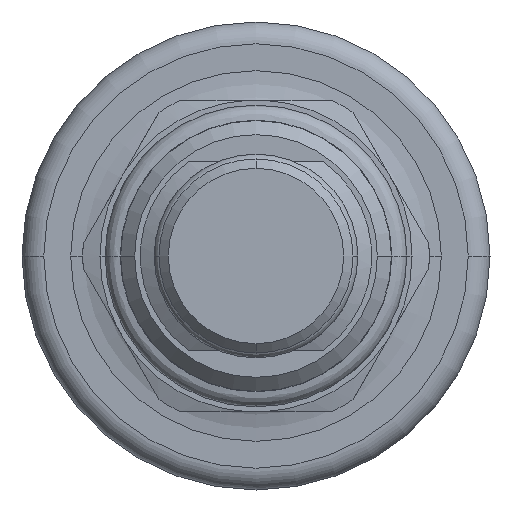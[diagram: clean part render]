
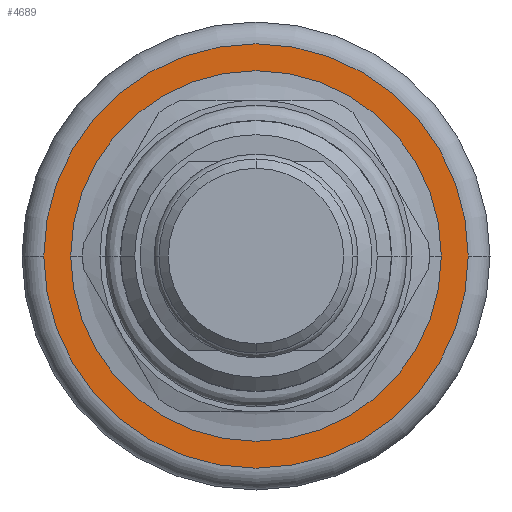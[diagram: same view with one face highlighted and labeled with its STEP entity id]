
A CAD part, front view. The second image highlights one B-rep face of the part: STEP entity #4689.
In plain terms, the highlighted planar face has unit normal (0, -1, 0).
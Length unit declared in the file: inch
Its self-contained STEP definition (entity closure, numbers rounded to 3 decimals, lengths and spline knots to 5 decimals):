
#2065=CARTESIAN_POINT('',(0.,3.2105,0.));
#2066=DIRECTION('',(0.,1.,0.));
#2067=DIRECTION('',(1.,0.,0.));
#2068=AXIS2_PLACEMENT_3D('',#2065,#2066,#2067);
#2070=CARTESIAN_POINT('',(0.,3.2105,0.));
#2071=DIRECTION('',(0.,-1.,0.));
#2072=DIRECTION('',(1.,0.,0.));
#2073=AXIS2_PLACEMENT_3D('',#2070,#2071,#2072);
#2075=CARTESIAN_POINT('',(0.,3.2105,0.));
#2076=DIRECTION('',(0.,-1.,0.));
#2077=DIRECTION('',(1.,0.,0.));
#2078=AXIS2_PLACEMENT_3D('',#2075,#2076,#2077);
#2090=CARTESIAN_POINT('',(0.,3.2105,0.));
#2091=DIRECTION('',(0.,1.,0.));
#2092=DIRECTION('',(1.,0.,0.));
#2093=AXIS2_PLACEMENT_3D('',#2090,#2091,#2092);
#2531=CARTESIAN_POINT('',(0.59375,3.2105,0.));
#2532=VERTEX_POINT('',#2531);
#2533=CARTESIAN_POINT('',(0.68,3.2105,0.));
#2535=VERTEX_POINT('',#2533);
#2543=CARTESIAN_POINT('',(-0.59375,3.2105,0.));
#2544=VERTEX_POINT('',#2543);
#2545=CARTESIAN_POINT('',(-0.68,3.2105,0.));
#2547=VERTEX_POINT('',#2545);
#4674=CARTESIAN_POINT('',(0.,3.2105,0.));
#4675=DIRECTION('',(0.,-1.,0.));
#4676=DIRECTION('',(-1.,0.,0.));
#4677=AXIS2_PLACEMENT_3D('',#4674,#4675,#4676);
#4678=PLANE('',#4677);
#4680=ORIENTED_EDGE('',*,*,#4679,.F.);
#4682=ORIENTED_EDGE('',*,*,#4681,.T.);
#4683=EDGE_LOOP('',(#4680,#4682));
#4684=FACE_OUTER_BOUND('',#4683,.F.);
#4685=ORIENTED_EDGE('',*,*,#4667,.F.);
#4686=ORIENTED_EDGE('',*,*,#4656,.T.);
#4687=EDGE_LOOP('',(#4685,#4686));
#4688=FACE_BOUND('',#4687,.F.);
#4689=ADVANCED_FACE('',(#4684,#4688),#4678,.T.);
#2069=CIRCLE('',#2068,0.59375);
#2074=CIRCLE('',#2073,0.59375);
#2079=CIRCLE('',#2078,0.68);
#2094=CIRCLE('',#2093,0.68);
#4656=EDGE_CURVE('',#2532,#2544,#2074,.T.);
#4667=EDGE_CURVE('',#2532,#2544,#2069,.T.);
#4679=EDGE_CURVE('',#2535,#2547,#2079,.T.);
#4681=EDGE_CURVE('',#2535,#2547,#2094,.T.);
